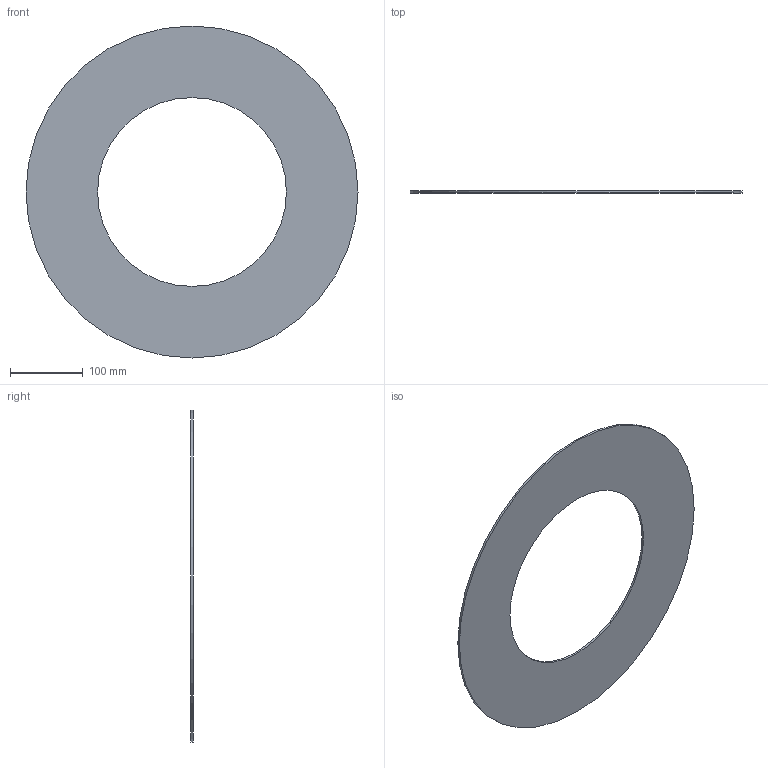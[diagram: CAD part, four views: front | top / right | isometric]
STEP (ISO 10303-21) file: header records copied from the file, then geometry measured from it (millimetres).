
FILE_DESCRIPTION(/* description */ ('Unknown'),/* implementation_level */ '2;1');
FILE_NAME(/* name */ 'GUA.355H',/* time_stamp */ '2021-04-01T15:06:59+02:00',/* author */ ('Unknown'),/* organization */ ('Unknown'),/* preprocessor_version */ 'ST-DEVELOPER v16.7',/* originating_system */ 'Solid Edge',/* authorisation */ 'Unknown');
FILE_SCHEMA (('AUTOMOTIVE_DESIGN {1 0 10303 214 3 1 1}'));
Length unit declared in the file: millimetre
Products named in the file (1): GUA.355H
Bounding box: 457 x 3 x 457 mm (x, y, z)
Volume: 332810.1 mm3; surface area: 228631 mm2
Topology: 1 solids, 1 shells, 4 faces, 6 edges, 4 vertices
Faces by surface type: cylinder 2, plane 2
Full cylindrical faces by diameter (mm): 260 x1, 457 x1
Entity records: 118 total; most frequent: DIRECTION 18, CARTESIAN_POINT 13, AXIS2_PLACEMENT_3D 9, ORIENTED_EDGE 8, EDGE_LOOP 8, FACE_BOUND 8, EDGE_CURVE 4, VERTEX_POINT 4
